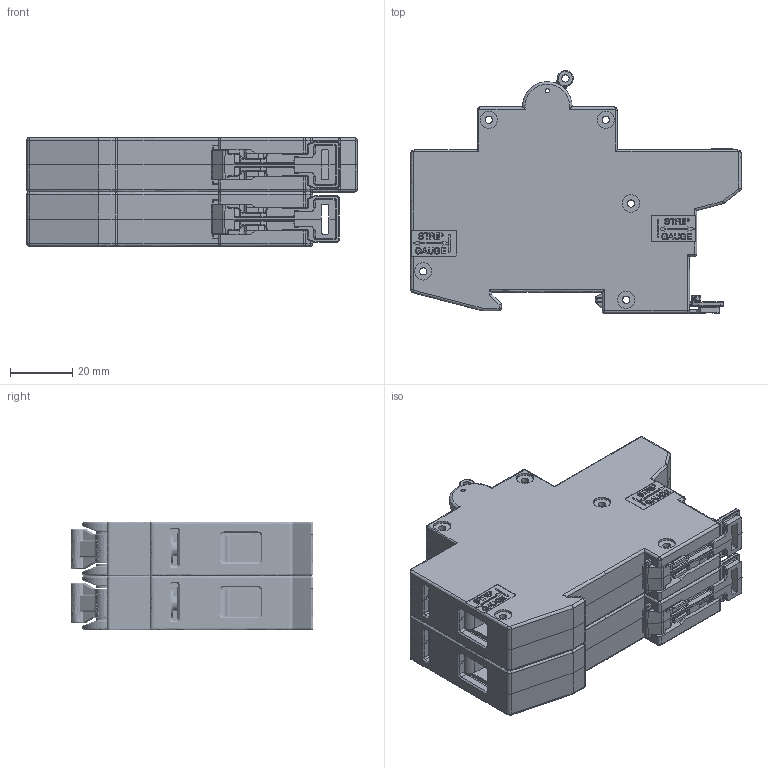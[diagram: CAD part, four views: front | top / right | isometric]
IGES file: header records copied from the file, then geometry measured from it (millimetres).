
Global section: file name: No Iges File Name specified; native system: Autodesk Inventor 2011; preprocessor: AutoDesk Inventor Iges Exporter R2011; author: oey; date: 20110218.130128; units: inch
Bounding box: 106.38 x 78.17 x 34.95 mm (x, y, z)
Surface area: 79181.9 mm2 (no closed solid volume)
Topology: 0 solids, 0 shells, 5047 faces, 30578 edges, 30551 vertices
Faces by surface type: plane 3043, revolution 1587, bspline 417
